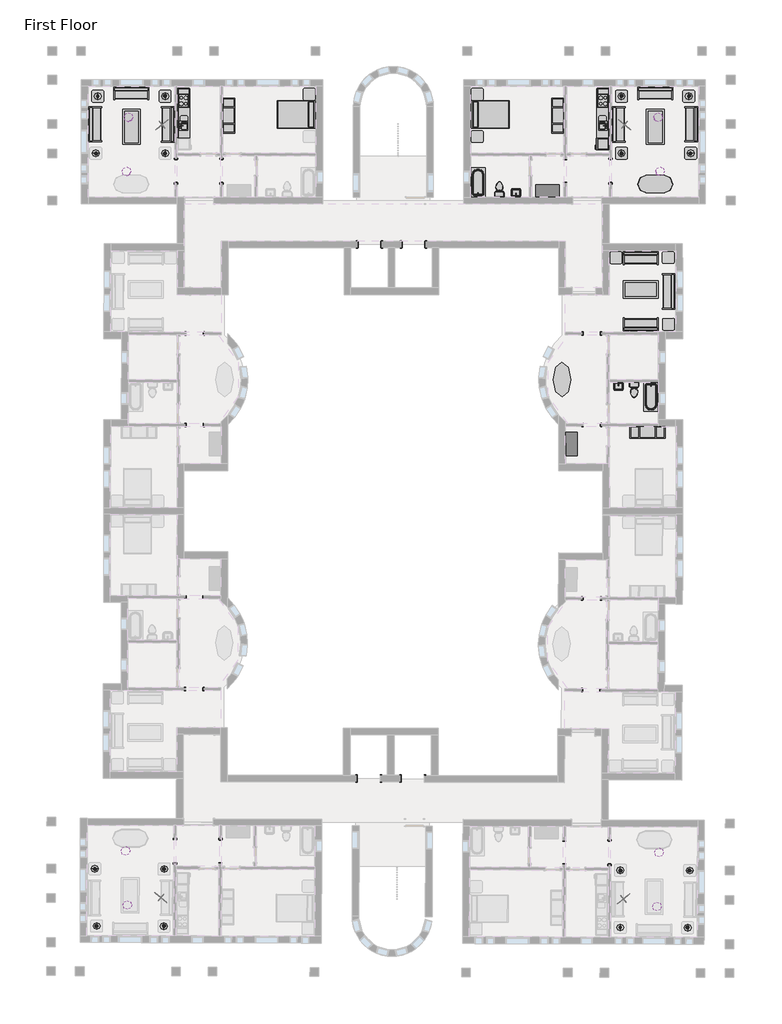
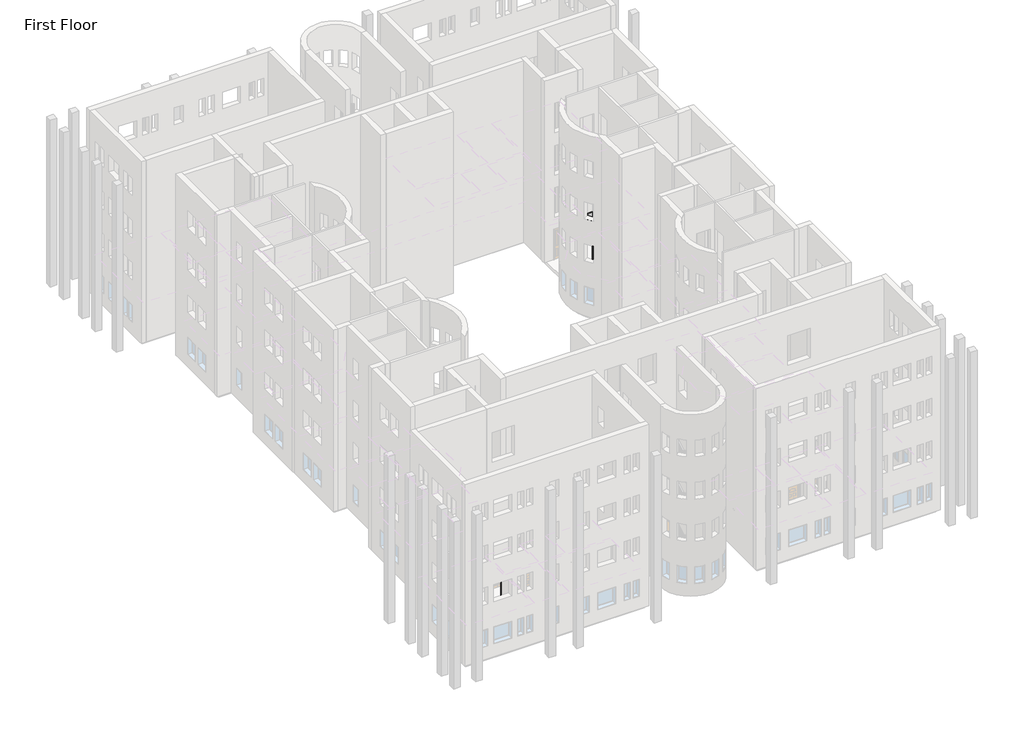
# One storey, part 22 of 22: 35 furniture elements, 31 proxies, 24 light fixtures, 8 flow terminals.
"""IFC4 building model written with IfcOpenShell, lengths in millimetres."""

from ifc_helpers import new_model, si_unit, origin, place, context, project, spatial, transform, mapped, element, save
from components import m_cook_top_4_unit2_0615_x_500mm_249f3515, m_cook_top_4_unit2_0615_x_500mm_c91639ce, m_dishwasher_610_x_610_x_875mm_54ecfc4c, m_dishwasher_610_x_610_x_875mm_75336c20, m_kitchenette_medium_2591_ce898a11, m_kitchenette_medium_2591_5feaf90f, m_passage_opening_cased_0915_x_2134mm_b7ef4dee, m_passage_opening_cased_0915_x_2134mm_5e741ba8, m_passage_opening_cased_1220_x_2134mm_87a8d9c2, m_passage_opening_cased_1220_x_2134mm_f04423fa, m_passage_opening_cased_1220_x_2134mm_7296280d, m_passage_opening_cased_1220_x_2134mm_b92f2863, m_rpc_female_c3b5a3e1, m_rpc_female_9d515f38, m_refrigerator_600_x_660mm_a466bf94, m_sink_kitchen_island_450_x_450mm_f969cf2d, m_sink_kitchen_island_450_x_450mm_f6c2c534, m_sink_vanity_square_500_x_440mm_1e229b74, m_sink_vanity_square_500_x_440mm_f3cfe680, m_toilet_domestic_3d_m_toilet_domestic_3d_5cb52bd4, m_toilet_domestic_3d_m_toilet_domestic_3d_183bbd19, m_toilet_domestic_3d_m_toilet_domestic_3d_43425dfb, m_toilet_domestic_3d_m_toilet_domestic_3d_5530cc89, m_tub_rectangular_3d_m_tub_rectangular_3d_3a981ad5, m_bed_shaker_1422_x_1981mm_double_096e7f55, m_bed_shaker_1422_x_1981mm_double_097b173b, m_counter_top_w_sink_hole_600mm_depth_5db41418, m_counter_top_w_sink_hole_600mm_depth_42226178, m_dresser_1220_x_1525_x_0610mm_18e1f140, m_dresser_1220_x_1525_x_0610mm_4e5de046, m_entertainment_center_1830_x_1830_x_0610mm_f77a9b93, m_entertainment_center_1830_x_1830_x_0610mm_4f6058a0, m_sofa_1830mm_58d08fc1, m_sofa_1830mm_3da2e71b, m_sofa1_1830mm_493d6964, m_table_coffee_0915_x_1830_x_0457mm_134cd960, m_table_coffee_0915_x_1830_x_0457mm_595c1ebd, m_table_dining_oval_0915_x_1830mm_a7cfbe21, m_table_ellipse_1800_x_900mm_f7269293, m_table_end_cb6ea12e, m_table_end_aa2764bc, m_table_end_0610_x_0160mm_ccef8dc9, m_pendant_light_disk_100w_120v_a7a090af, m_pendant_light_disk_100w_120v_732193ba, m_table_lamp_standard_60w_120v_6e8cd8b1, m_table_lamp_standard_60w_120v_b33ea945

model = new_model("IFC4")

# Units and contexts
model_context = context("Model", 3, world=origin())
ifc_project = project(units=[si_unit("LENGTHUNIT", "METRE", prefix="MILLI")], contexts=[model_context])

# Site, building, storey
site = spatial("IfcSite", under=ifc_project)
building = spatial("IfcBuilding", under=site)
storey = spatial("IfcBuildingStorey", under=building, Name="First Floor", Elevation=0.0)

# Proxies
placement = place(None, origin())
m_cook_top_4_unit2_0615_x_500mm_shape = m_cook_top_4_unit2_0615_x_500mm_249f3515(model_context)
element("IfcBuildingElementProxy", 1, Name="M_Cook Top-4 Unit2 : 0615 x 500mm", ObjectType="M_Cook Top-4 Unit2 : 0615 x 500mm", at=placement, inside=storey, context=model_context, shape_type="MappedRepresentation", body=[
    mapped(m_cook_top_4_unit2_0615_x_500mm_shape, transform((-8054.9916203, 1658.804661, 0.0), x_axis=(0.0, -1.0, 0.0), y_axis=(1.0, 0.0, 0.0), z_axis=(0.0, 0.0, 1.0))),
])
m_cook_top_4_unit2_0615_x_500mm_2_shape = m_cook_top_4_unit2_0615_x_500mm_c91639ce(model_context)
element("IfcBuildingElementProxy", 2, Name="M_Cook Top-4 Unit2 : 0615 x 500mm", ObjectType="M_Cook Top-4 Unit2 : 0615 x 500mm", at=placement, inside=storey, context=model_context, shape_type="MappedRepresentation", body=[
    mapped(m_cook_top_4_unit2_0615_x_500mm_2_shape, transform((-29859.1916203, 1658.804661, 0.0), x_axis=(0.0, -1.0, 0.0), y_axis=(1.0, 0.0, 0.0), z_axis=(0.0, 0.0, 1.0))),
])
m_dishwasher_610_x_610_x_875mm_shape = m_dishwasher_610_x_610_x_875mm_54ecfc4c(model_context)
element("IfcBuildingElementProxy", 3, Name="M_Dishwasher : 610 x 610 x 875mm", ObjectType="M_Dishwasher : 610 x 610 x 875mm", at=placement, inside=storey, context=model_context, shape_type="MappedRepresentation", body=[
    mapped(m_dishwasher_610_x_610_x_875mm_shape, transform((-8321.6411851, 403.0721295, 0.0), x_axis=(0.0, -1.0, 0.0), y_axis=(1.0, 0.0, 0.0), z_axis=(0.0, 0.0, 1.0))),
])
m_dishwasher_610_x_610_x_875mm_2_shape = m_dishwasher_610_x_610_x_875mm_75336c20(model_context)
element("IfcBuildingElementProxy", 4, Name="M_Dishwasher : 610 x 610 x 875mm", ObjectType="M_Dishwasher : 610 x 610 x 875mm", at=placement, inside=storey, context=model_context, shape_type="MappedRepresentation", body=[
    mapped(m_dishwasher_610_x_610_x_875mm_2_shape, transform((-29592.5420555, 403.0721295, 0.0), x_axis=(0.0, -1.0, 0.0), y_axis=(1.0, 0.0, 0.0), z_axis=(0.0, 0.0, 1.0))),
])
m_kitchenette_medium_2591_shape = m_kitchenette_medium_2591_ce898a11(model_context)
element("IfcBuildingElementProxy", 5, Name="M_Kitchenette - Medium : 2591", ObjectType="M_Kitchenette - Medium : 2591", at=placement, inside=storey, context=model_context, shape_type="MappedRepresentation", body=[
    mapped(m_kitchenette_medium_2591_shape, transform((-7749.9916203, 1029.7923659, 0.0), x_axis=(0.0, -1.0, 0.0), y_axis=(1.0, 0.0, 0.0), z_axis=(0.0, 0.0, 1.0))),
])
m_kitchenette_medium_2591_2_shape = m_kitchenette_medium_2591_5feaf90f(model_context)
element("IfcBuildingElementProxy", 6, Name="M_Kitchenette - Medium : 2591", ObjectType="M_Kitchenette - Medium : 2591", at=placement, inside=storey, context=model_context, shape_type="MappedRepresentation", body=[
    mapped(m_kitchenette_medium_2591_2_shape, transform((-30164.1916203, 1029.7923659, 0.0), x_axis=(0.0, -1.0, 0.0), y_axis=(1.0, 0.0, 0.0), z_axis=(0.0, 0.0, 1.0))),
])
m_passage_opening_cased_0915_x_2134mm_shape = m_passage_opening_cased_0915_x_2134mm_b7ef4dee(model_context)
element("IfcBuildingElementProxy", 7, Name="M_Passage Opening-Cased : 0915 x 2134mm", ObjectType="M_Passage Opening-Cased : 0915 x 2134mm", at=placement, inside=storey, context=model_context, shape_type="MappedRepresentation", body=[
    mapped(m_passage_opening_cased_0915_x_2134mm_shape, transform((-29263.1209408, -10426.1057324, 0.0), x_axis=(0.9999989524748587, -0.0014474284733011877, 0.0), y_axis=(0.0014474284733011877, 0.9999989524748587, 0.0), z_axis=(0.0, 0.0, 1.0))),
])
element("IfcBuildingElementProxy", 8, Name="M_Passage Opening-Cased : 0915 x 2134mm", ObjectType="M_Passage Opening-Cased : 0915 x 2134mm", at=placement, inside=storey, context=model_context, shape_type="MappedRepresentation", body=[
    mapped(m_passage_opening_cased_0915_x_2134mm_shape, transform((-29270.0280695, -15198.1007336, 0.0), x_axis=(0.9999989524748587, -0.0014474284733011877, 0.0), y_axis=(0.0014474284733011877, 0.9999989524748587, 0.0), z_axis=(0.0, 0.0, 1.0))),
])
element("IfcBuildingElementProxy", 9, Name="M_Passage Opening-Cased : 0915 x 2134mm", ObjectType="M_Passage Opening-Cased : 0915 x 2134mm", at=placement, inside=storey, context=model_context, shape_type="MappedRepresentation", body=[
    mapped(m_passage_opening_cased_0915_x_2134mm_shape, transform((-8677.908724, -28973.7552644, 0.0), x_axis=(-0.9999905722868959, 0.004342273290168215, 0.0), y_axis=(-0.004342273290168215, -0.9999905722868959, 0.0), z_axis=(0.0, 0.0, 1.0))),
])
element("IfcBuildingElementProxy", 10, Name="M_Passage Opening-Cased : 0915 x 2134mm", ObjectType="M_Passage Opening-Cased : 0915 x 2134mm", at=placement, inside=storey, context=model_context, shape_type="MappedRepresentation", body=[
    mapped(m_passage_opening_cased_0915_x_2134mm_shape, transform((-8657.1873959, -24201.8002534, 0.0), x_axis=(-0.9999905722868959, 0.004342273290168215, 0.0), y_axis=(-0.004342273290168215, -0.9999905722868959, 0.0), z_axis=(0.0, 0.0, 1.0))),
])
m_passage_opening_cased_0915_x_2134mm_2_shape = m_passage_opening_cased_0915_x_2134mm_5e741ba8(model_context)
element("IfcBuildingElementProxy", 11, Name="M_Passage Opening-Cased : 0915 x 2134mm", ObjectType="M_Passage Opening-Cased : 0915 x 2134mm", at=placement, inside=storey, context=model_context, shape_type="MappedRepresentation", body=[
    mapped(m_passage_opening_cased_0915_x_2134mm_2_shape, transform((-8651.0622999, -10426.1057324, 0.0), x_axis=(-0.9999989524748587, -0.0014474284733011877, 0.0), y_axis=(0.0014474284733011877, -0.9999989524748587, 0.0), z_axis=(0.0, 0.0, 1.0))),
])
element("IfcBuildingElementProxy", 12, Name="M_Passage Opening-Cased : 0915 x 2134mm", ObjectType="M_Passage Opening-Cased : 0915 x 2134mm", at=placement, inside=storey, context=model_context, shape_type="MappedRepresentation", body=[
    mapped(m_passage_opening_cased_0915_x_2134mm_2_shape, transform((-8644.1551712, -15198.1007336, 0.0), x_axis=(-0.9999989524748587, -0.0014474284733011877, 0.0), y_axis=(0.0014474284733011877, -0.9999989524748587, 0.0), z_axis=(0.0, 0.0, 1.0))),
])
element("IfcBuildingElementProxy", 13, Name="M_Passage Opening-Cased : 0915 x 2134mm", ObjectType="M_Passage Opening-Cased : 0915 x 2134mm", at=placement, inside=storey, context=model_context, shape_type="MappedRepresentation", body=[
    mapped(m_passage_opening_cased_0915_x_2134mm_2_shape, transform((-29289.8809984, -28914.0863657, 0.0), x_axis=(0.9999989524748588, -0.0014474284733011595, 0.0), y_axis=(0.0014474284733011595, 0.9999989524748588, 0.0), z_axis=(0.0, 0.0, 1.0))),
])
element("IfcBuildingElementProxy", 14, Name="M_Passage Opening-Cased : 0915 x 2134mm", ObjectType="M_Passage Opening-Cased : 0915 x 2134mm", at=placement, inside=storey, context=model_context, shape_type="MappedRepresentation", body=[
    mapped(m_passage_opening_cased_0915_x_2134mm_2_shape, transform((-29282.9738697, -24142.0913645, 0.0), x_axis=(0.9999989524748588, -0.0014474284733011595, 0.0), y_axis=(0.0014474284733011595, 0.9999989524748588, 0.0), z_axis=(0.0, 0.0, 1.0))),
])
m_passage_opening_cased_1220_x_2134mm_shape = m_passage_opening_cased_1220_x_2134mm_87a8d9c2(model_context)
element("IfcBuildingElementProxy", 15, Name="M_Passage Opening-Cased : 1220 x 2134mm", ObjectType="M_Passage Opening-Cased : 1220 x 2134mm", at=placement, inside=storey, context=model_context, shape_type="MappedRepresentation", body=[
    mapped(m_passage_opening_cased_1220_x_2134mm_shape, transform((-7665.3416203, -1982.6925047, 0.0), x_axis=(0.0, 1.0, 0.0), y_axis=(-1.0, 0.0, 0.0), z_axis=(0.0, 0.0, 1.0))),
])
element("IfcBuildingElementProxy", 16, Name="M_Passage Opening-Cased : 1220 x 2134mm", ObjectType="M_Passage Opening-Cased : 1220 x 2134mm", at=placement, inside=storey, context=model_context, shape_type="MappedRepresentation", body=[
    mapped(m_passage_opening_cased_1220_x_2134mm_shape, transform((-10019.0916203, -1999.0698181, 0.0), x_axis=(0.0, -1.0, 0.0), y_axis=(1.0, 0.0, 0.0), z_axis=(0.0, 0.0, 1.0))),
])
element("IfcBuildingElementProxy", 17, Name="M_Passage Opening-Cased : 1220 x 2134mm", ObjectType="M_Passage Opening-Cased : 1220 x 2134mm", at=placement, inside=storey, context=model_context, shape_type="MappedRepresentation", body=[
    mapped(m_passage_opening_cased_1220_x_2134mm_shape, transform((-30300.0399955, -37354.6106974, 0.0), x_axis=(-0.0028948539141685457, -0.9999958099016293, 0.0), y_axis=(0.9999958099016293, -0.0028948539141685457, 0.0), z_axis=(0.0, 0.0, 1.0))),
])
element("IfcBuildingElementProxy", 18, Name="M_Passage Opening-Cased : 1220 x 2134mm", ObjectType="M_Passage Opening-Cased : 1220 x 2134mm", at=placement, inside=storey, context=model_context, shape_type="MappedRepresentation", body=[
    mapped(m_passage_opening_cased_1220_x_2134mm_shape, transform((-27946.252448, -37345.047215, 0.0), x_axis=(0.0028948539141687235, 0.9999958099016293, 0.0), y_axis=(-0.9999958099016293, 0.0028948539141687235, 0.0), z_axis=(0.0, 0.0, 1.0))),
])
m_passage_opening_cased_1220_x_2134mm_2_shape = m_passage_opening_cased_1220_x_2134mm_f04423fa(model_context)
element("IfcBuildingElementProxy", 19, Name="M_Passage Opening-Cased : 1220 x 2134mm", ObjectType="M_Passage Opening-Cased : 1220 x 2134mm", at=placement, inside=storey, context=model_context, shape_type="MappedRepresentation", body=[
    mapped(m_passage_opening_cased_1220_x_2134mm_2_shape, transform((-17916.280277, -5800.8811614, 0.0), x_axis=(-1.0, 0.0, 0.0), y_axis=(0.0, -1.0, 0.0), z_axis=(0.0, 0.0, 1.0))),
])
element("IfcBuildingElementProxy", 20, Name="M_Passage Opening-Cased : 1220 x 2134mm", ObjectType="M_Passage Opening-Cased : 1220 x 2134mm", at=placement, inside=storey, context=model_context, shape_type="MappedRepresentation", body=[
    mapped(m_passage_opening_cased_1220_x_2134mm_2_shape, transform((-20185.9029636, -5800.8811614, 0.0), x_axis=(1.0, 0.0, 0.0), y_axis=(0.0, 1.0, 0.0), z_axis=(0.0, 0.0, 1.0))),
])
m_passage_opening_cased_1220_x_2134mm_3_shape = m_passage_opening_cased_1220_x_2134mm_7296280d(model_context)
element("IfcBuildingElementProxy", 21, Name="M_Passage Opening-Cased : 1220 x 2134mm", ObjectType="M_Passage Opening-Cased : 1220 x 2134mm", at=placement, inside=storey, context=model_context, shape_type="MappedRepresentation", body=[
    mapped(m_passage_opening_cased_1220_x_2134mm_3_shape, transform((-30248.8416203, -1982.6925047, 0.0), x_axis=(0.0, 1.0, 0.0), y_axis=(-1.0, 0.0, 0.0), z_axis=(0.0, 0.0, 1.0))),
])
element("IfcBuildingElementProxy", 22, Name="M_Passage Opening-Cased : 1220 x 2134mm", ObjectType="M_Passage Opening-Cased : 1220 x 2134mm", at=placement, inside=storey, context=model_context, shape_type="MappedRepresentation", body=[
    mapped(m_passage_opening_cased_1220_x_2134mm_3_shape, transform((-27895.0916203, -1999.0698181, 0.0), x_axis=(0.0, -1.0, 0.0), y_axis=(1.0, 0.0, 0.0), z_axis=(0.0, 0.0, 1.0))),
])
element("IfcBuildingElementProxy", 23, Name="M_Passage Opening-Cased : 1220 x 2134mm", ObjectType="M_Passage Opening-Cased : 1220 x 2134mm", at=placement, inside=storey, context=model_context, shape_type="MappedRepresentation", body=[
    mapped(m_passage_opening_cased_1220_x_2134mm_3_shape, transform((-7716.6346226, -37419.9866307, 0.0), x_axis=(-0.0028948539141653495, -0.9999958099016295, 0.0), y_axis=(0.9999958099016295, -0.0028948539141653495, 0.0), z_axis=(0.0, 0.0, 1.0))),
])
element("IfcBuildingElementProxy", 24, Name="M_Passage Opening-Cased : 1220 x 2134mm", ObjectType="M_Passage Opening-Cased : 1220 x 2134mm", at=placement, inside=storey, context=model_context, shape_type="MappedRepresentation", body=[
    mapped(m_passage_opening_cased_1220_x_2134mm_3_shape, transform((-10070.3273502, -37396.7956235, 0.0), x_axis=(0.0028948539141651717, 0.9999958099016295, 0.0), y_axis=(-0.9999958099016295, 0.0028948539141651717, 0.0), z_axis=(0.0, 0.0, 1.0))),
])
m_passage_opening_cased_1220_x_2134mm_4_shape = m_passage_opening_cased_1220_x_2134mm_b92f2863(model_context)
element("IfcBuildingElementProxy", 25, Name="M_Passage Opening-Cased : 1220 x 2134mm", ObjectType="M_Passage Opening-Cased : 1220 x 2134mm", at=placement, inside=storey, context=model_context, shape_type="MappedRepresentation", body=[
    mapped(m_passage_opening_cased_1220_x_2134mm_4_shape, transform((-17956.4772285, -33572.1390027, 0.0), x_axis=(-0.9999958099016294, 0.0028948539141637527, 0.0), y_axis=(-0.0028948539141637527, -0.9999958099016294, 0.0), z_axis=(0.0, 0.0, 1.0))),
])
element("IfcBuildingElementProxy", 26, Name="M_Passage Opening-Cased : 1220 x 2134mm", ObjectType="M_Passage Opening-Cased : 1220 x 2134mm", at=placement, inside=storey, context=model_context, shape_type="MappedRepresentation", body=[
    mapped(m_passage_opening_cased_1220_x_2134mm_4_shape, transform((-20226.0904051, -33565.5687766, 0.0), x_axis=(0.9999958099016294, -0.0028948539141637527, 0.0), y_axis=(0.0028948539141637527, 0.9999958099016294, 0.0), z_axis=(0.0, 0.0, 1.0))),
])
m_rpc_female_shape = m_rpc_female_c3b5a3e1(model_context)
element("IfcBuildingElementProxy", 27, Name="M_RPC Female : Cynthia", ObjectType="M_RPC Female : Cynthia", at=placement, inside=storey, context=model_context, shape_type="MappedRepresentation", body=[
    mapped(m_rpc_female_shape, transform((-6817.8815242, 314.0517006, 0.0), x_axis=(-0.6293203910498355, -0.7771459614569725, 0.0), y_axis=(0.7771459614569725, -0.6293203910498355, 0.0), z_axis=(0.0, 0.0, 1.0))),
])
element("IfcBuildingElementProxy", 28, Name="M_RPC Female : Cynthia", ObjectType="M_RPC Female : Cynthia", at=placement, inside=storey, context=model_context, shape_type="MappedRepresentation", body=[
    mapped(m_rpc_female_shape, transform((-31154.1452796, -39648.8920059, 0.0), x_axis=(0.6315674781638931, 0.77532091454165, 0.0), y_axis=(-0.77532091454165, 0.6315674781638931, 0.0), z_axis=(0.0, 0.0, 1.0))),
])
m_rpc_female_2_shape = m_rpc_female_9d515f38(model_context)
element("IfcBuildingElementProxy", 29, Name="M_RPC Female : Cynthia", ObjectType="M_RPC Female : Cynthia", at=placement, inside=storey, context=model_context, shape_type="MappedRepresentation", body=[
    mapped(m_rpc_female_2_shape, transform((-31096.3017165, 314.0517006, 0.0), x_axis=(0.6293203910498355, -0.7771459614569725, 0.0), y_axis=(0.7771459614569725, 0.6293203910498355, 0.0), z_axis=(0.0, 0.0, 1.0))),
])
element("IfcBuildingElementProxy", 30, Name="M_RPC Female : Cynthia", ObjectType="M_RPC Female : Cynthia", at=placement, inside=storey, context=model_context, shape_type="MappedRepresentation", body=[
    mapped(m_rpc_female_2_shape, transform((-6875.8268164, -39719.1744856, 0.0), x_axis=(-0.6270680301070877, 0.7789644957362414, 0.0), y_axis=(-0.7789644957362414, -0.6270680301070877, 0.0), z_axis=(0.0, 0.0, 1.0))),
])
m_refrigerator_600_x_660mm_shape = m_refrigerator_600_x_660mm_a466bf94(model_context)
element("IfcBuildingElementProxy", 31, Name="M_Refrigerator : 600 x 660mm", ObjectType="M_Refrigerator : 600 x 660mm", at=placement, inside=storey, context=model_context, shape_type="MappedRepresentation", body=[
    mapped(m_refrigerator_600_x_660mm_shape, transform((-8046.2067105, -638.2464817, 0.0), x_axis=(0.0, -1.0, 0.0), y_axis=(1.0, 0.0, 0.0), z_axis=(0.0, 0.0, 1.0))),
])

# Flow terminals
m_sink_kitchen_island_450_x_450mm_shape = m_sink_kitchen_island_450_x_450mm_f969cf2d(model_context)
element("IfcFlowTerminal", 32, ObjectType="M_Sink Kitchen-Island : 450 x 450mm", at=placement, inside=storey, context=model_context, shape_type="MappedRepresentation", body=[
    mapped(m_sink_kitchen_island_450_x_450mm_shape, transform((-8057.3370214, 378.9939015, 0.0), x_axis=(0.0, -1.0, 0.0), y_axis=(1.0, 0.0, 0.0), z_axis=(0.0, 0.0, 1.0))),
])
m_sink_kitchen_island_450_x_450mm_2_shape = m_sink_kitchen_island_450_x_450mm_f6c2c534(model_context)
element("IfcFlowTerminal", 33, ObjectType="M_Sink Kitchen-Island : 450 x 450mm", at=placement, inside=storey, context=model_context, shape_type="MappedRepresentation", body=[
    mapped(m_sink_kitchen_island_450_x_450mm_2_shape, transform((-29856.8462192, 378.9939015, 0.0), x_axis=(0.0, -1.0, 0.0), y_axis=(1.0, 0.0, 0.0), z_axis=(0.0, 0.0, 1.0))),
])
m_sink_vanity_square_500_x_440mm_shape = m_sink_vanity_square_500_x_440mm_1e229b74(model_context)
element("IfcFlowTerminal", 34, ObjectType="M_Sink Vanity-Square : 500 x 440mm", at=placement, inside=storey, context=model_context, shape_type="MappedRepresentation", body=[
    mapped(m_sink_vanity_square_500_x_440mm_shape, transform((-12563.5523798, -3158.1107603, 0.0), x_axis=(-1.0, 0.0, 0.0), y_axis=(0.0, -1.0, 0.0), z_axis=(0.0, 0.0, 1.0))),
])
m_sink_vanity_square_500_x_440mm_2_shape = m_sink_vanity_square_500_x_440mm_f3cfe680(model_context)
element("IfcFlowTerminal", 35, ObjectType="M_Sink Vanity-Square : 500 x 440mm", at=placement, inside=storey, context=model_context, shape_type="MappedRepresentation", body=[
    mapped(m_sink_vanity_square_500_x_440mm_2_shape, transform((-7236.8377041, -13134.5069817, 0.0), x_axis=(-0.9999989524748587, -0.001447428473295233, 0.0), y_axis=(0.0014474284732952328, -0.9999989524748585, 0.0), z_axis=(0.0, 0.0, 0.9999999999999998))),
])
m_toilet_domestic_3d_m_toilet_domestic_3d_shape = m_toilet_domestic_3d_m_toilet_domestic_3d_5cb52bd4(model_context)
m_toilet_domestic_3d_m_toilet_domestic_3d_2_shape = m_toilet_domestic_3d_m_toilet_domestic_3d_183bbd19(model_context)
element("IfcFlowTerminal", 36, ObjectType="M_Toilet-Domestic-3D : M_Toilet-Domestic-3D", at=placement, inside=storey, context=model_context, shape_type="MappedRepresentation", body=[
    mapped(m_toilet_domestic_3d_m_toilet_domestic_3d_shape, transform((-13440.7376477, -2845.185134, 0.0), x_axis=(-1.0, 0.0, 0.0), y_axis=(0.0, -1.0, 0.0), z_axis=(0.0, 0.0, 1.0))),
    mapped(m_toilet_domestic_3d_m_toilet_domestic_3d_2_shape, transform((-13440.7376477, -2845.185134, 0.0), x_axis=(-1.0, 0.0, 0.0), y_axis=(0.0, -1.0, 0.0), z_axis=(0.0, 0.0, 1.0))),
])
m_toilet_domestic_3d_m_toilet_domestic_3d_3_shape = m_toilet_domestic_3d_m_toilet_domestic_3d_43425dfb(model_context)
m_toilet_domestic_3d_m_toilet_domestic_3d_4_shape = m_toilet_domestic_3d_m_toilet_domestic_3d_5530cc89(model_context)
element("IfcFlowTerminal", 37, ObjectType="M_Toilet-Domestic-3D1 : M_Toilet-Domestic-3D", at=placement, inside=storey, context=model_context, shape_type="MappedRepresentation", body=[
    mapped(m_toilet_domestic_3d_m_toilet_domestic_3d_3_shape, transform((-6439.1397387, -13456.0033339, 0.0), x_axis=(-0.9999989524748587, -0.001447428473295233, 0.0), y_axis=(0.0014474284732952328, -0.9999989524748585, 0.0), z_axis=(0.0, 0.0, 0.9999999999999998))),
    mapped(m_toilet_domestic_3d_m_toilet_domestic_3d_4_shape, transform((-6439.1397387, -13456.0033339, 0.0), x_axis=(-0.9999989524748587, -0.001447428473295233, 0.0), y_axis=(0.0014474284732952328, -0.9999989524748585, 0.0), z_axis=(0.0, 0.0, 0.9999999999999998))),
])
m_tub_rectangular_3d_m_tub_rectangular_3d_shape = m_tub_rectangular_3d_m_tub_rectangular_3d_3a981ad5(model_context)
element("IfcFlowTerminal", 38, ObjectType="M_Tub-Rectangular-3D : M_Tub-Rectangular-3D", at=placement, inside=storey, context=model_context, shape_type="MappedRepresentation", body=[
    mapped(m_tub_rectangular_3d_m_tub_rectangular_3d_shape, transform((-15110.3416203, -2229.2781927, 0.0), x_axis=(0.0, 1.0, 0.0), y_axis=(-1.0, 0.0, 0.0), z_axis=(0.0, 0.0, 1.0))),
])
element("IfcFlowTerminal", 39, ObjectType="M_Tub-Rectangular-3D : M_Tub-Rectangular-3D", at=placement, inside=storey, context=model_context, shape_type="MappedRepresentation", body=[
    mapped(m_tub_rectangular_3d_m_tub_rectangular_3d_shape, transform((-5003.7957874, -14069.8333606, 0.0), x_axis=(0.0014474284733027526, -0.9999989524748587, 0.0), y_axis=(0.9999989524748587, 0.0014474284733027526, 0.0), z_axis=(0.0, 0.0, 1.0))),
])

# Furniture
m_bed_shaker_1422_x_1981mm_double_shape = m_bed_shaker_1422_x_1981mm_double_096e7f55(model_context)
element("IfcFurniture", 40, ObjectType="M_Bed-Shaker : 1422 x 1981mm - Double", at=placement, inside=storey, context=model_context, shape_type="MappedRepresentation", body=[
    mapped(m_bed_shaker_1422_x_1981mm_double_shape, transform((-14905.3416203, 963.9688386, 0.0), x_axis=(0.0, 1.0, 0.0), y_axis=(-1.0, 0.0, 0.0), z_axis=(0.0, 0.0, 1.0))),
])
m_bed_shaker_1422_x_1981mm_double_2_shape = m_bed_shaker_1422_x_1981mm_double_097b173b(model_context)
element("IfcFurniture", 41, ObjectType="M_Bed-Shaker : 1422 x 1981mm - Double", at=placement, inside=storey, context=model_context, shape_type="MappedRepresentation", body=[
    mapped(m_bed_shaker_1422_x_1981mm_double_2_shape, transform((-23008.8416203, 963.9688386, 0.0), x_axis=(0.0, 1.0, 0.0), y_axis=(-1.0, 0.0, 0.0), z_axis=(0.0, 0.0, 1.0))),
])
m_counter_top_w_sink_hole_600mm_depth_shape = m_counter_top_w_sink_hole_600mm_depth_5db41418(model_context)
element("IfcFurniture", 42, ObjectType="M_Counter Top w Sink Hole : 600mm Depth", at=placement, inside=storey, context=model_context, shape_type="MappedRepresentation", body=[
    mapped(m_counter_top_w_sink_hole_600mm_depth_shape, transform((-7749.9916203, 496.5923659, 0.0), x_axis=(0.0, -1.0, 0.0), y_axis=(1.0, 0.0, 0.0), z_axis=(0.0, 0.0, 1.0))),
])
m_counter_top_w_sink_hole_600mm_depth_2_shape = m_counter_top_w_sink_hole_600mm_depth_42226178(model_context)
element("IfcFurniture", 43, ObjectType="M_Counter Top w Sink Hole : 600mm Depth", at=placement, inside=storey, context=model_context, shape_type="MappedRepresentation", body=[
    mapped(m_counter_top_w_sink_hole_600mm_depth_2_shape, transform((-30164.1916203, 496.5923659, 0.0), x_axis=(0.0, -1.0, 0.0), y_axis=(1.0, 0.0, 0.0), z_axis=(0.0, 0.0, 1.0))),
])
m_dresser_1220_x_1525_x_0610mm_shape = m_dresser_1220_x_1525_x_0610mm_18e1f140(model_context)
element("IfcFurniture", 44, ObjectType="M_Dresser : 1220 x 1525 x 0610mm", at=placement, inside=storey, context=model_context, shape_type="MappedRepresentation", body=[
    mapped(m_dresser_1220_x_1525_x_0610mm_shape, transform((-10667.6483605, -2647.7182073, 0.0), x_axis=(1.0, 0.0, 0.0), y_axis=(0.0, 1.0, 0.0), z_axis=(0.0, 0.0, 1.0))),
])
m_dresser_1220_x_1525_x_0610mm_2_shape = m_dresser_1220_x_1525_x_0610mm_4e5de046(model_context)
element("IfcFurniture", 45, ObjectType="M_Dresser : 1220 x 1525 x 0610mm", at=placement, inside=storey, context=model_context, shape_type="MappedRepresentation", body=[
    mapped(m_dresser_1220_x_1525_x_0610mm_2_shape, transform((-9339.5667518, -15914.9147832, 0.0), x_axis=(-0.0014474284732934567, 0.9999989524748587, 0.0), y_axis=(-0.9999989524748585, -0.0014474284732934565, 0.0), z_axis=(0.0, 0.0, 0.9999999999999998))),
])
m_entertainment_center_1830_x_1830_x_0610mm_shape = m_entertainment_center_1830_x_1830_x_0610mm_f77a9b93(model_context)
element("IfcFurniture", 46, ObjectType="M_Entertainment center : 1830 x 1830 x 0610mm", at=placement, inside=storey, context=model_context, shape_type="MappedRepresentation", body=[
    mapped(m_entertainment_center_1830_x_1830_x_0610mm_shape, transform((-10818.2416203, 891.1188386, 0.0), x_axis=(0.0, 1.0, 0.0), y_axis=(-1.0, 0.0, 0.0), z_axis=(0.0, 0.0, 1.0))),
])
m_entertainment_center_1830_x_1830_x_0610mm_2_shape = m_entertainment_center_1830_x_1830_x_0610mm_4f6058a0(model_context)
element("IfcFurniture", 47, ObjectType="M_Entertainment center : 1830 x 1830 x 0610mm", at=placement, inside=storey, context=model_context, shape_type="MappedRepresentation", body=[
    mapped(m_entertainment_center_1830_x_1830_x_0610mm_2_shape, transform((-5741.0312966, -15980.2994888, 0.0), x_axis=(0.9999989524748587, 0.0014474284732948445, 0.0), y_axis=(-0.0014474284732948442, 0.9999989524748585, 0.0), z_axis=(0.0, 0.0, 0.9999999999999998))),
])
element("IfcFurniture", 48, ObjectType="M_Entertainment center : 1830 x 1830 x 0610mm", at=placement, inside=storey, context=model_context, shape_type="MappedRepresentation", body=[
    mapped(m_entertainment_center_1830_x_1830_x_0610mm_2_shape, transform((-27095.9416203, 891.1188386, 0.0), x_axis=(0.0, 1.0, 0.0), y_axis=(-1.0, 0.0, 0.0), z_axis=(0.0, 0.0, 1.0))),
])
m_sofa_1830mm_shape = m_sofa_1830mm_58d08fc1(model_context)
element("IfcFurniture", 49, ObjectType="M_Sofa : 1830mm", at=placement, inside=storey, context=model_context, shape_type="MappedRepresentation", body=[
    mapped(m_sofa_1830mm_shape, transform((-5413.7121121, 1899.9647403, 0.0), x_axis=(1.0, 0.0, 0.0), y_axis=(0.0, 1.0, 0.0), z_axis=(0.0, 0.0, 1.0))),
])
element("IfcFurniture", 50, ObjectType="M_Sofa : 1830mm", at=placement, inside=storey, context=model_context, shape_type="MappedRepresentation", body=[
    mapped(m_sofa_1830mm_shape, transform((-3617.1736471, 517.2688343, 0.0), x_axis=(0.0, -1.0, 0.0), y_axis=(1.0, 0.0, 0.0), z_axis=(0.0, 0.0, 1.0))),
])
element("IfcFurniture", 51, ObjectType="M_Sofa : 1830mm", at=placement, inside=storey, context=model_context, shape_type="MappedRepresentation", body=[
    mapped(m_sofa_1830mm_shape, transform((-7088.437522, 355.7483468, 0.0), x_axis=(0.0, 1.0, 0.0), y_axis=(-1.0, 0.0, 0.0), z_axis=(0.0, 0.0, 1.0))),
])
m_sofa_1830mm_2_shape = m_sofa_1830mm_3da2e71b(model_context)
element("IfcFurniture", 52, ObjectType="M_Sofa : 1830mm", at=placement, inside=storey, context=model_context, shape_type="MappedRepresentation", body=[
    mapped(m_sofa_1830mm_2_shape, transform((-32500.4711285, 1899.9647403, 0.0), x_axis=(-1.0, 0.0, 0.0), y_axis=(0.0, -1.0, 0.0), z_axis=(0.0, 0.0, 1.0))),
])
element("IfcFurniture", 53, ObjectType="M_Sofa : 1830mm", at=placement, inside=storey, context=model_context, shape_type="MappedRepresentation", body=[
    mapped(m_sofa_1830mm_2_shape, transform((-34297.0095936, 517.2688343, 0.0), x_axis=(0.0, -1.0, 0.0), y_axis=(1.0, 0.0, 0.0), z_axis=(0.0, 0.0, 1.0))),
])
element("IfcFurniture", 54, ObjectType="M_Sofa : 1830mm", at=placement, inside=storey, context=model_context, shape_type="MappedRepresentation", body=[
    mapped(m_sofa_1830mm_2_shape, transform((-30825.7457187, 355.7483468, 0.0), x_axis=(0.0, 1.0, 0.0), y_axis=(-1.0, 0.0, 0.0), z_axis=(0.0, 0.0, 1.0))),
])
m_sofa1_1830mm_shape = m_sofa1_1830mm_493d6964(model_context)
element("IfcFurniture", 55, ObjectType="M_Sofa1 : 1830mm", at=placement, inside=storey, context=model_context, shape_type="MappedRepresentation", body=[
    mapped(m_sofa1_1830mm_shape, transform((-4803.866496, -8323.9054813, 0.0), x_axis=(-0.0014474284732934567, 0.9999989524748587, 0.0), y_axis=(-0.9999989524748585, -0.0014474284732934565, 0.0), z_axis=(0.0, 0.0, 0.9999999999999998))),
])
element("IfcFurniture", 56, ObjectType="M_Sofa1 : 1830mm", at=placement, inside=storey, context=model_context, shape_type="MappedRepresentation", body=[
    mapped(m_sofa1_1830mm_shape, transform((-6160.9353266, -9808.5967065, 0.0), x_axis=(0.9999989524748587, 0.0014474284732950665, 0.0), y_axis=(-0.0014474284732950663, 0.9999989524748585, 0.0), z_axis=(0.0, 0.0, 0.9999999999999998))),
])
element("IfcFurniture", 57, ObjectType="M_Sofa1 : 1830mm", at=placement, inside=storey, context=model_context, shape_type="MappedRepresentation", body=[
    mapped(m_sofa1_1830mm_shape, transform((-6024.7349893, -6671.4544767, 0.0), x_axis=(-0.9999989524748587, -0.001447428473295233, 0.0), y_axis=(0.0014474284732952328, -0.9999989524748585, 0.0), z_axis=(0.0, 0.0, 0.9999999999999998))),
])
m_table_coffee_0915_x_1830_x_0457mm_shape = m_table_coffee_0915_x_1830_x_0457mm_134cd960(model_context)
element("IfcFurniture", 58, ObjectType="M_Table-Coffee : 0915 x 1830 x 0457mm", at=placement, inside=storey, context=model_context, shape_type="MappedRepresentation", body=[
    mapped(m_table_coffee_0915_x_1830_x_0457mm_shape, transform((-5248.1305425, 287.8530719, 0.0), x_axis=(0.0, 1.0, 0.0), y_axis=(-1.0, 0.0, 0.0), z_axis=(0.0, 0.0, 1.0))),
])
m_table_coffee_0915_x_1830_x_0457mm_2_shape = m_table_coffee_0915_x_1830_x_0457mm_595c1ebd(model_context)
element("IfcFurniture", 59, ObjectType="M_Table-Coffee : 0915 x 1830 x 0457mm", at=placement, inside=storey, context=model_context, shape_type="MappedRepresentation", body=[
    mapped(m_table_coffee_0915_x_1830_x_0457mm_2_shape, transform((-6111.362291, -8059.4661414, 0.0), x_axis=(0.9999989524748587, 0.0014474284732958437, 0.0), y_axis=(-0.0014474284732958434, 0.9999989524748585, 0.0), z_axis=(0.0, 0.0, 0.9999999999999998))),
])
element("IfcFurniture", 60, ObjectType="M_Table-Coffee : 0915 x 1830 x 0457mm", at=placement, inside=storey, context=model_context, shape_type="MappedRepresentation", body=[
    mapped(m_table_coffee_0915_x_1830_x_0457mm_2_shape, transform((-32666.0526981, 287.8530719, 0.0), x_axis=(0.0, 1.0, 0.0), y_axis=(-1.0, 0.0, 0.0), z_axis=(0.0, 0.0, 1.0))),
])
m_table_dining_oval_0915_x_1830mm_shape = m_table_dining_oval_0915_x_1830mm_a7cfbe21(model_context)
element("IfcFurniture", 61, ObjectType="M_Table-Dining Oval : 0915 x 1830mm", at=placement, inside=storey, context=model_context, shape_type="MappedRepresentation", body=[
    mapped(m_table_dining_oval_0915_x_1830mm_shape, transform((-4941.5219482, -2305.2828007, 0.0), x_axis=(1.0, 0.0, 0.0), y_axis=(0.0, 1.0, 0.0), z_axis=(0.0, 0.0, 1.0))),
])
m_table_ellipse_1800_x_900mm_shape = m_table_ellipse_1800_x_900mm_f7269293(model_context)
element("IfcFurniture", 62, ObjectType="M_Table-Ellipse : 1800 x 900mm", at=placement, inside=storey, context=model_context, shape_type="MappedRepresentation", body=[
    mapped(m_table_ellipse_1800_x_900mm_shape, transform((-10187.1940045, -12831.2316926, 0.0), x_axis=(-0.0014474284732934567, 0.9999989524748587, 0.0), y_axis=(-0.9999989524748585, -0.0014474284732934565, 0.0), z_axis=(0.0, 0.0, 0.9999999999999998))),
])
m_table_end_shape = m_table_end_cb6ea12e(model_context)
element("IfcFurniture", 63, ObjectType="M_Table-End : 0610 x 0160mm altered height", at=placement, inside=storey, context=model_context, shape_type="MappedRepresentation", body=[
    mapped(m_table_end_shape, transform((-7407.0752506, 1748.7188386, 0.0), x_axis=(1.0, 0.0, 0.0), y_axis=(0.0, 1.0, 0.0), z_axis=(0.0, 0.0, 1.0))),
])
element("IfcFurniture", 64, ObjectType="M_Table-End : 0610 x 0160mm altered height", at=placement, inside=storey, context=model_context, shape_type="MappedRepresentation", body=[
    mapped(m_table_end_shape, transform((-3907.0752506, 1748.7188386, 0.0), x_axis=(1.0, 0.0, 0.0), y_axis=(0.0, 1.0, 0.0), z_axis=(0.0, 0.0, 1.0))),
])
element("IfcFurniture", 65, ObjectType="M_Table-End : 0610 x 0160mm altered height", at=placement, inside=storey, context=model_context, shape_type="MappedRepresentation", body=[
    mapped(m_table_end_shape, transform((-3807.0752506, -1222.7811614, 0.0), x_axis=(1.0, 0.0, 0.0), y_axis=(0.0, 1.0, 0.0), z_axis=(0.0, 0.0, 1.0))),
])
element("IfcFurniture", 66, ObjectType="M_Table-End : 0610 x 0160mm altered height", at=placement, inside=storey, context=model_context, shape_type="MappedRepresentation", body=[
    mapped(m_table_end_shape, transform((-7407.0752506, -1222.7811614, 0.0), x_axis=(1.0, 0.0, 0.0), y_axis=(0.0, 1.0, 0.0), z_axis=(0.0, 0.0, 1.0))),
])
element("IfcFurniture", 67, ObjectType="M_Table-End : 0610 x 0160mm altered height", at=placement, inside=storey, context=model_context, shape_type="MappedRepresentation", body=[
    mapped(m_table_end_shape, transform((-14899.0752506, -351.2811614, 0.0), x_axis=(1.0, 0.0, 0.0), y_axis=(0.0, 1.0, 0.0), z_axis=(0.0, 0.0, 1.0))),
])
element("IfcFurniture", 68, ObjectType="M_Table-End : 0610 x 0160mm altered height", at=placement, inside=storey, context=model_context, shape_type="MappedRepresentation", body=[
    mapped(m_table_end_shape, transform((-14899.0752506, 1848.7188386, 0.0), x_axis=(1.0, 0.0, 0.0), y_axis=(0.0, 1.0, 0.0), z_axis=(0.0, 0.0, 1.0))),
])
m_table_end_2_shape = m_table_end_aa2764bc(model_context)
element("IfcFurniture", 69, ObjectType="M_Table-End : 0610 x 0160mm altered height", at=placement, inside=storey, context=model_context, shape_type="MappedRepresentation", body=[
    mapped(m_table_end_2_shape, transform((-30507.10799, 1748.7188386, 0.0), x_axis=(-1.0, 0.0, 0.0), y_axis=(0.0, -1.0, 0.0), z_axis=(0.0, 0.0, 1.0))),
])
element("IfcFurniture", 70, ObjectType="M_Table-End : 0610 x 0160mm altered height", at=placement, inside=storey, context=model_context, shape_type="MappedRepresentation", body=[
    mapped(m_table_end_2_shape, transform((-34007.10799, 1748.7188386, 0.0), x_axis=(-1.0, 0.0, 0.0), y_axis=(0.0, -1.0, 0.0), z_axis=(0.0, 0.0, 1.0))),
])
element("IfcFurniture", 71, ObjectType="M_Table-End : 0610 x 0160mm altered height", at=placement, inside=storey, context=model_context, shape_type="MappedRepresentation", body=[
    mapped(m_table_end_2_shape, transform((-23015.10799, 1848.7188386, 0.0), x_axis=(-1.0, 0.0, 0.0), y_axis=(0.0, -1.0, 0.0), z_axis=(0.0, 0.0, 1.0))),
])
m_table_end_0610_x_0160mm_shape = m_table_end_0610_x_0160mm_ccef8dc9(model_context)
element("IfcFurniture", 72, ObjectType="M_Table-End : 0610 x 0160mm", at=placement, inside=storey, context=model_context, shape_type="MappedRepresentation", body=[
    mapped(m_table_end_0610_x_0160mm_shape, transform((-4807.2995119, -10267.2756246, 0.0), x_axis=(-0.0014474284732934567, 0.9999989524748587, 0.0), y_axis=(-0.9999989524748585, -0.0014474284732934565, 0.0), z_axis=(0.0, 0.0, 0.9999999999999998))),
])
element("IfcFurniture", 73, ObjectType="M_Table-End : 0610 x 0160mm", at=placement, inside=storey, context=model_context, shape_type="MappedRepresentation", body=[
    mapped(m_table_end_0610_x_0160mm_shape, transform((-4812.3220887, -6797.2792595, 0.0), x_axis=(-0.0014474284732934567, 0.9999989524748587, 0.0), y_axis=(-0.9999989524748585, -0.0014474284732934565, 0.0), z_axis=(0.0, 0.0, 0.9999999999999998))),
])
element("IfcFurniture", 74, ObjectType="M_Table-End : 0610 x 0160mm", at=placement, inside=storey, context=model_context, shape_type="MappedRepresentation", body=[
    mapped(m_table_end_0610_x_0160mm_shape, transform((-7532.3192395, -6801.216265, 0.0), x_axis=(-0.0014474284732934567, 0.9999989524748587, 0.0), y_axis=(-0.9999989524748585, -0.0014474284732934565, 0.0), z_axis=(0.0, 0.0, 0.9999999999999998))),
])

# Light fixtures
m_pendant_light_disk_100w_120v_shape = m_pendant_light_disk_100w_120v_a7a090af(model_context)
element("IfcLightFixture", 75, ObjectType="M_Pendant Light - Disk : 100W - 120V", at=placement, inside=storey, context=model_context, shape_type="MappedRepresentation", body=[
    mapped(m_pendant_light_disk_100w_120v_shape, transform((-5193.3416203, 806.1188386, 151.5999938), x_axis=(1.0, 0.0, 0.0), y_axis=(0.0, 1.0, 0.0), z_axis=(0.0, 0.0, 1.0))),
])
element("IfcLightFixture", 76, ObjectType="M_Pendant Light - Disk : 100W - 120V", at=placement, inside=storey, context=model_context, shape_type="MappedRepresentation", body=[
    mapped(m_pendant_light_disk_100w_120v_shape, transform((-5093.3416203, -2005.8811614, 151.5999938), x_axis=(1.0, 0.0, 0.0), y_axis=(0.0, 1.0, 0.0), z_axis=(0.0, 0.0, 1.0))),
])
element("IfcLightFixture", 77, ObjectType="M_Pendant Light - Disk : 100W - 120V", at=placement, inside=storey, context=model_context, shape_type="MappedRepresentation", body=[
    mapped(m_pendant_light_disk_100w_120v_shape, transform((-32780.102839, -40136.2542764, 151.5999938), x_axis=(-0.9999958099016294, 0.0028948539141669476, 0.0), y_axis=(-0.0028948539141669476, -0.9999958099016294, 0.0), z_axis=(0.0, 0.0, 1.0))),
])
element("IfcLightFixture", 78, ObjectType="M_Pendant Light - Disk : 100W - 120V", at=placement, inside=storey, context=model_context, shape_type="MappedRepresentation", body=[
    mapped(m_pendant_light_disk_100w_120v_shape, transform((-32871.9620908, -37323.9765735, 151.5999938), x_axis=(-0.9999958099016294, 0.0028948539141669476, 0.0), y_axis=(-0.0028948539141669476, -0.9999958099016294, 0.0), z_axis=(0.0, 0.0, 1.0))),
])
m_pendant_light_disk_100w_120v_2_shape = m_pendant_light_disk_100w_120v_732193ba(model_context)
element("IfcLightFixture", 79, ObjectType="M_Pendant Light - Disk : 100W - 120V", at=placement, inside=storey, context=model_context, shape_type="MappedRepresentation", body=[
    mapped(m_pendant_light_disk_100w_120v_2_shape, transform((-32720.8416203, 806.1188386, 151.5999938), x_axis=(-1.0, 0.0, 0.0), y_axis=(0.0, -1.0, 0.0), z_axis=(0.0, 0.0, 1.0))),
])
element("IfcLightFixture", 80, ObjectType="M_Pendant Light - Disk : 100W - 120V", at=placement, inside=storey, context=model_context, shape_type="MappedRepresentation", body=[
    mapped(m_pendant_light_disk_100w_120v_2_shape, transform((-32820.8416203, -2005.8811614, 151.5999938), x_axis=(-1.0, 0.0, 0.0), y_axis=(0.0, -1.0, 0.0), z_axis=(0.0, 0.0, 1.0))),
])
element("IfcLightFixture", 81, ObjectType="M_Pendant Light - Disk : 100W - 120V", at=placement, inside=storey, context=model_context, shape_type="MappedRepresentation", body=[
    mapped(m_pendant_light_disk_100w_120v_2_shape, transform((-5252.7181819, -40215.9423675, 151.5999938), x_axis=(0.9999958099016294, -0.002894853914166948, 0.0), y_axis=(0.002894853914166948, 0.9999958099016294, 0.0), z_axis=(0.0, 0.0, 1.0))),
])
element("IfcLightFixture", 82, ObjectType="M_Pendant Light - Disk : 100W - 120V", at=placement, inside=storey, context=model_context, shape_type="MappedRepresentation", body=[
    mapped(m_pendant_light_disk_100w_120v_2_shape, transform((-5144.5782717, -37404.2436354, 151.5999938), x_axis=(0.9999958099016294, -0.002894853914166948, 0.0), y_axis=(0.002894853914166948, 0.9999958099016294, 0.0), z_axis=(0.0, 0.0, 1.0))),
])
m_table_lamp_standard_60w_120v_shape = m_table_lamp_standard_60w_120v_6e8cd8b1(model_context)
element("IfcLightFixture", 83, ObjectType="M_Table Lamp - Standard : 60W - 120V", at=placement, inside=storey, context=model_context, shape_type="MappedRepresentation", body=[
    mapped(m_table_lamp_standard_60w_120v_shape, transform((-3498.3416203, -1070.3811614, 381.0), x_axis=(1.0, 0.0, 0.0), y_axis=(0.0, 1.0, 0.0), z_axis=(0.0, 0.0, 1.0))),
])
element("IfcLightFixture", 84, ObjectType="M_Table Lamp - Standard : 60W - 120V", at=placement, inside=storey, context=model_context, shape_type="MappedRepresentation", body=[
    mapped(m_table_lamp_standard_60w_120v_shape, transform((-3598.3416203, 1901.1188386, 381.0), x_axis=(0.0, 1.0, 0.0), y_axis=(-1.0, 0.0, 0.0), z_axis=(0.0, 0.0, 1.0))),
])
element("IfcLightFixture", 85, ObjectType="M_Table Lamp - Standard : 60W - 120V", at=placement, inside=storey, context=model_context, shape_type="MappedRepresentation", body=[
    mapped(m_table_lamp_standard_60w_120v_shape, transform((-7098.3416203, 1901.1188386, 381.0), x_axis=(0.0, 1.0, 0.0), y_axis=(-1.0, 0.0, 0.0), z_axis=(0.0, 0.0, 1.0))),
])
element("IfcLightFixture", 86, ObjectType="M_Table Lamp - Standard : 60W - 120V", at=placement, inside=storey, context=model_context, shape_type="MappedRepresentation", body=[
    mapped(m_table_lamp_standard_60w_120v_shape, transform((-7098.3416203, -1070.3811614, 381.0), x_axis=(0.0, 1.0, 0.0), y_axis=(-1.0, 0.0, 0.0), z_axis=(0.0, 0.0, 1.0))),
])
element("IfcLightFixture", 87, ObjectType="M_Table Lamp - Standard : 60W - 120V", at=placement, inside=storey, context=model_context, shape_type="MappedRepresentation", body=[
    mapped(m_table_lamp_standard_60w_120v_shape, transform((-34469.6635434, -38254.8553617, 381.0), x_axis=(-0.9999958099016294, 0.0028948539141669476, 0.0), y_axis=(-0.0028948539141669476, -0.9999958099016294, 0.0), z_axis=(0.0, 0.0, 1.0))),
])
element("IfcLightFixture", 88, ObjectType="M_Table Lamp - Standard : 60W - 120V", at=placement, inside=storey, context=model_context, shape_type="MappedRepresentation", body=[
    mapped(m_table_lamp_standard_60w_120v_shape, transform((-34378.2660208, -41226.6323962, 381.0), x_axis=(-0.002894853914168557, -0.9999958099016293, 0.0), y_axis=(0.9999958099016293, -0.002894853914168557, 0.0), z_axis=(0.0, 0.0, 1.0))),
])
element("IfcLightFixture", 89, ObjectType="M_Table Lamp - Standard : 60W - 120V", at=placement, inside=storey, context=model_context, shape_type="MappedRepresentation", body=[
    mapped(m_table_lamp_standard_60w_120v_shape, transform((-30878.2806862, -41236.7643849, 381.0), x_axis=(-0.002894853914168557, -0.9999958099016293, 0.0), y_axis=(0.9999958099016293, -0.002894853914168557, 0.0), z_axis=(0.0, 0.0, 1.0))),
])
element("IfcLightFixture", 90, ObjectType="M_Table Lamp - Standard : 60W - 120V", at=placement, inside=storey, context=model_context, shape_type="MappedRepresentation", body=[
    mapped(m_table_lamp_standard_60w_120v_shape, transform((-30869.6786278, -38265.2768358, 381.0), x_axis=(-0.002894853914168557, -0.9999958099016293, 0.0), y_axis=(0.9999958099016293, -0.002894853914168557, 0.0), z_axis=(0.0, 0.0, 1.0))),
])
m_table_lamp_standard_60w_120v_2_shape = m_table_lamp_standard_60w_120v_b33ea945(model_context)
element("IfcLightFixture", 91, ObjectType="M_Table Lamp - Standard : 60W - 120V", at=placement, inside=storey, context=model_context, shape_type="MappedRepresentation", body=[
    mapped(m_table_lamp_standard_60w_120v_2_shape, transform((-34415.8416203, -1070.3811614, 381.0), x_axis=(-1.0, 0.0, 0.0), y_axis=(0.0, -1.0, 0.0), z_axis=(0.0, 0.0, 1.0))),
])
element("IfcLightFixture", 92, ObjectType="M_Table Lamp - Standard : 60W - 120V", at=placement, inside=storey, context=model_context, shape_type="MappedRepresentation", body=[
    mapped(m_table_lamp_standard_60w_120v_2_shape, transform((-34315.8416203, 1901.1188386, 381.0), x_axis=(0.0, 1.0, 0.0), y_axis=(-1.0, 0.0, 0.0), z_axis=(0.0, 0.0, 1.0))),
])
element("IfcLightFixture", 93, ObjectType="M_Table Lamp - Standard : 60W - 120V", at=placement, inside=storey, context=model_context, shape_type="MappedRepresentation", body=[
    mapped(m_table_lamp_standard_60w_120v_2_shape, transform((-30815.8416203, 1901.1188386, 381.0), x_axis=(0.0, 1.0, 0.0), y_axis=(-1.0, 0.0, 0.0), z_axis=(0.0, 0.0, 1.0))),
])
element("IfcLightFixture", 94, ObjectType="M_Table Lamp - Standard : 60W - 120V", at=placement, inside=storey, context=model_context, shape_type="MappedRepresentation", body=[
    mapped(m_table_lamp_standard_60w_120v_2_shape, transform((-30815.8416203, -1070.3811614, 381.0), x_axis=(0.0, 1.0, 0.0), y_axis=(-1.0, 0.0, 0.0), z_axis=(0.0, 0.0, 1.0))),
])
element("IfcLightFixture", 95, ObjectType="M_Table Lamp - Standard : 60W - 120V", at=placement, inside=storey, context=model_context, shape_type="MappedRepresentation", body=[
    mapped(m_table_lamp_standard_60w_120v_2_shape, transform((-3552.2930908, -38344.3570076, 381.0), x_axis=(0.9999958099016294, -0.002894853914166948, 0.0), y_axis=(0.002894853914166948, 0.9999958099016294, 0.0), z_axis=(0.0, 0.0, 1.0))),
])
element("IfcLightFixture", 96, ObjectType="M_Table Lamp - Standard : 60W - 120V", at=placement, inside=storey, context=model_context, shape_type="MappedRepresentation", body=[
    mapped(m_table_lamp_standard_60w_120v_2_shape, transform((-3660.8947302, -41315.5550713, 381.0), x_axis=(-0.0028948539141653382, -0.9999958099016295, 0.0), y_axis=(0.9999958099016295, -0.0028948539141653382, 0.0), z_axis=(0.0, 0.0, 1.0))),
])
element("IfcLightFixture", 97, ObjectType="M_Table Lamp - Standard : 60W - 120V", at=placement, inside=storey, context=model_context, shape_type="MappedRepresentation", body=[
    mapped(m_table_lamp_standard_60w_120v_2_shape, transform((-7160.8800648, -41305.4230826, 381.0), x_axis=(-0.0028948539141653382, -0.9999958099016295, 0.0), y_axis=(0.9999958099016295, -0.0028948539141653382, 0.0), z_axis=(0.0, 0.0, 1.0))),
])
element("IfcLightFixture", 98, ObjectType="M_Table Lamp - Standard : 60W - 120V", at=placement, inside=storey, context=model_context, shape_type="MappedRepresentation", body=[
    mapped(m_table_lamp_standard_60w_120v_2_shape, transform((-7152.2780064, -38333.9355335, 381.0), x_axis=(-0.0028948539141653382, -0.9999958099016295, 0.0), y_axis=(0.9999958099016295, -0.0028948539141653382, 0.0), z_axis=(0.0, 0.0, 1.0))),
])

save(model, "model.ifc")
